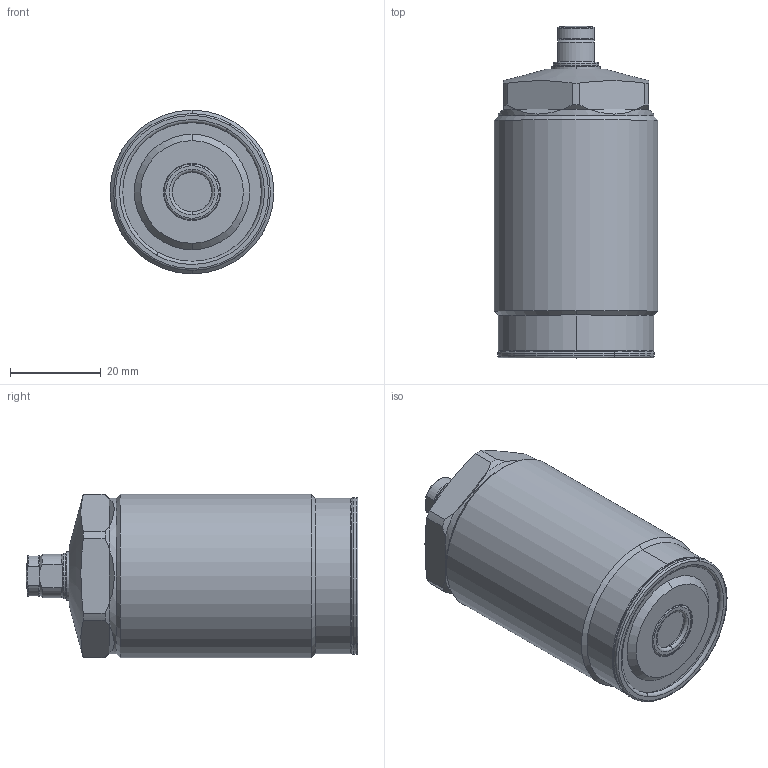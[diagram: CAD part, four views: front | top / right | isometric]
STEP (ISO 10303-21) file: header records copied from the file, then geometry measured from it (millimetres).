
FILE_DESCRIPTION(/* description */ (''),/* implementation_level */ '2;1');
FILE_NAME(/* name */ 'TNL36.stp',/* time_stamp */ '2025-01-09T10:08:13+08:00',/* author */ (''),/* organization */ (''),/* preprocessor_version */ 'ST-DEVELOPER v16.7',/* originating_system */ 'SIEMENS PLM Software NX 12.0',/* authorisation */ '');
FILE_SCHEMA (('AUTOMOTIVE_DESIGN { 1 0 10303 214 3 1 1 1 }'));
Length unit declared in the file: millimetre
Products named in the file (6): TNL36-001; TNL36-04; TNL36-03; TNL36-02; TNL36-05; TNL36_stp
Assembly tree (5 placements, depth 2):
  TNL36_stp
    TNL36-05
    TNL36-02
    TNL36-03
    TNL36-04
    TNL36-001
Bounding box: 36 x 73 x 36 mm (x, y, z)
Volume: 61628.5 mm3; surface area: 10518.9 mm2
Topology: 5 solids, 5 shells, 136 faces, 297 edges, 178 vertices
Faces by surface type: cylinder 40, torus 34, plane 34, cone 26, sphere 2
Full cylindrical faces by diameter (mm): 34.2 x1, 36 x1
Entity records: 4030 total; most frequent: CARTESIAN_POINT 831, DIRECTION 724, ORIENTED_EDGE 586, AXIS2_PLACEMENT_3D 323, EDGE_CURVE 293, VERTEX_POINT 178, CIRCLE 175, EDGE_LOOP 153
